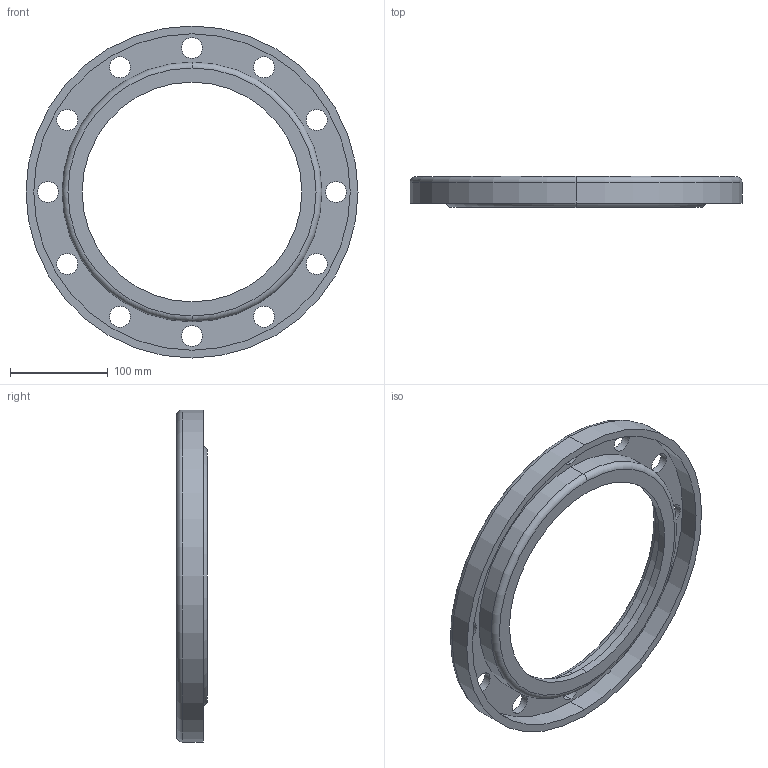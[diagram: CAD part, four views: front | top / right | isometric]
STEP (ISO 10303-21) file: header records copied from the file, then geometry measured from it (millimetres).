
FILE_DESCRIPTION (( 'STEP AP203' ), '1' );
FILE_NAME ('3D_R350_PN10_DN219-12S_17677320.STEP', '2024-07-04T09:40:41', ( '' ), ( '' ), 'SwSTEP 2.0', 'SolidWorks 2024', '' );
FILE_SCHEMA (( 'CONFIG_CONTROL_DESIGN' ));
Length unit declared in the file: millimetre
Products named in the file (1): 3D_R350_PN10_DN219-12S_17677320
Bounding box: 340 x 31.5 x 340 mm (x, y, z)
Volume: 666395.9 mm3; surface area: 185519.6 mm2
Topology: 1 solids, 1 shells, 45 faces, 114 edges, 74 vertices
Faces by surface type: cylinder 34, torus 6, plane 5
Entity records: 1529 total; most frequent: DIRECTION 286, CARTESIAN_POINT 234, ORIENTED_EDGE 228, AXIS2_PLACEMENT_3D 126, EDGE_CURVE 114, CIRCLE 80, VERTEX_POINT 74, EDGE_LOOP 74
